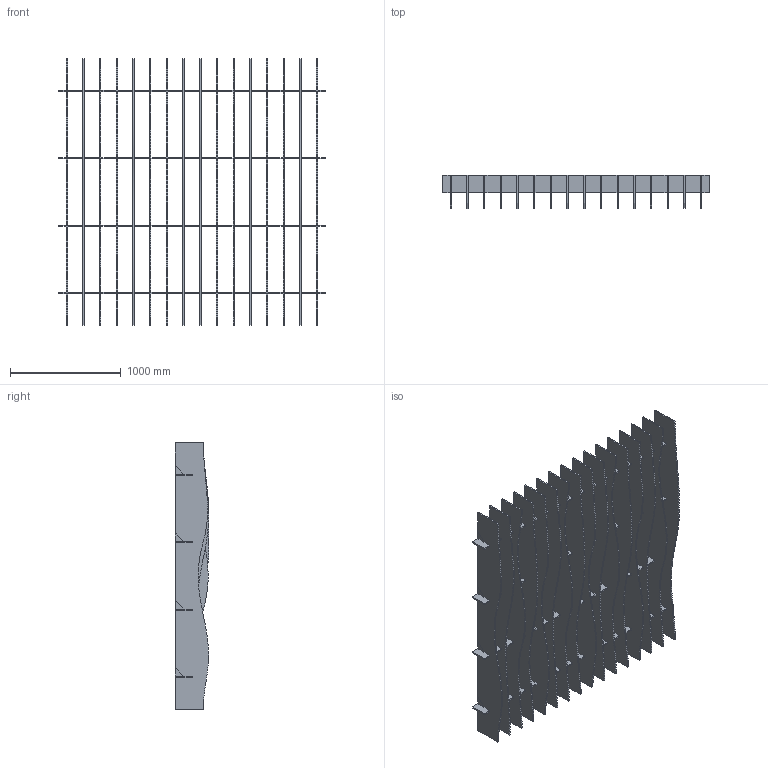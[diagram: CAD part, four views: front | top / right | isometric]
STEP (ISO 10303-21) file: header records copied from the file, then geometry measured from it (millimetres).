
FILE_DESCRIPTION(/* description */ (''),/* implementation_level */ '2;1');
FILE_NAME(/* name */ 'Y:\Design and Engineering\MaterialLogiq\CAD ASSETS\MASTER\BAFFLE\WEB ASSETS\PET BAFFLE_16FIN_8x8_10_WAVE.stp',/* time_stamp */ '2023-11-16T12:08:10-06:00',/* author */ ('Grant Baker'),/* organization */ (''),/* preprocessor_version */ 'ST-DEVELOPER v19',/* originating_system */ 'Autodesk Inventor 2023',/* authorisation */ '');
FILE_SCHEMA (('AUTOMOTIVE_DESIGN { 1 0 10303 214 3 1 1 }'));
Length unit declared in the file: inch
Products named in the file (6): PET BAFFLE_PARAMETRIC_11.02.2023; PET BAFFLE_BEAM; PET BAFFLE_FIN_96in_WAVE-1; PET BAFFLE_FIN_96in_WAVE-3; PET BAFFLE_FIN_96in_WAVE-2; PET BAFFLE_FIN_96in_WAVE-4
Assembly tree (20 placements, depth 2):
  PET BAFFLE_PARAMETRIC_11.02.2023
    PET BAFFLE_BEAM  x4
    PET BAFFLE_FIN_96in_WAVE-1  x4
    PET BAFFLE_FIN_96in_WAVE-3  x4
    PET BAFFLE_FIN_96in_WAVE-2  x4
    PET BAFFLE_FIN_96in_WAVE-4  x4
Bounding box: 2413 x 305.22 x 2413 mm (x, y, z)
Volume: 136727893.8 mm3; surface area: 24070308.3 mm2
Topology: 84 solids, 84 shells, 3936 faces, 11304 edges, 7536 vertices
Faces by surface type: plane 3936
Entity records: 31837 total; most frequent: CARTESIAN_POINT 5720, ORIENTED_EDGE 5652, DIRECTION 4846, LINE 2826, VECTOR 2826, EDGE_CURVE 2826, VERTEX_POINT 1884, AXIS2_PLACEMENT_3D 1010
